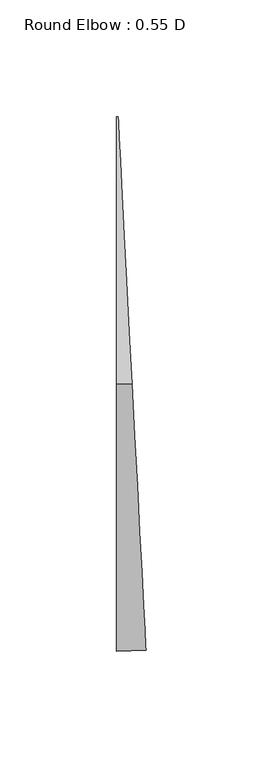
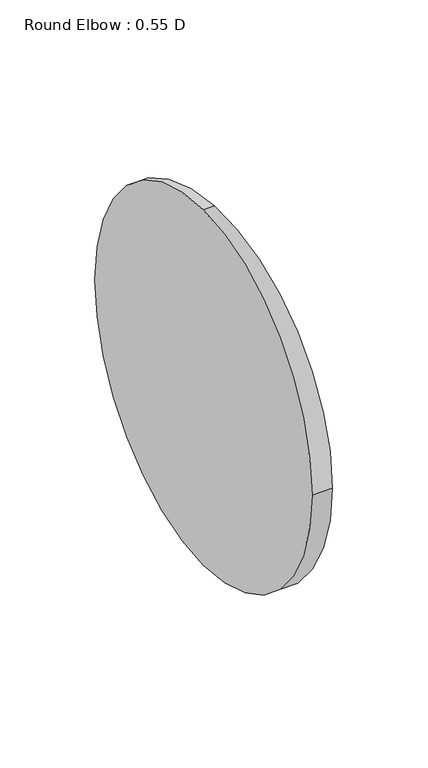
"""IFC4 building model written with IfcOpenShell, lengths in millimetres: duct fitting geometry, Round Elbow : 0.55 D."""

from ifc_helpers import new_model, si_unit, point, frame, origin, place, context, project, spatial, circle_curve, ellipse_curve, trimmed, source, transform, mapped, element, save
from ifc_brep_helpers import plane_surface, revolved_surface, advanced_brep


def round_elbow_0_55_d_5d434363(model_context):
    return source(origin(), model_context, "Body", "AdvancedBrep", [
        advanced_brep(
        [(-3.2923559, 0.0, 114.3), (-3.2923559, 114.3, 0.0), (-3.2923559, 0.0, -114.3), (-3.2923559, -114.3, 0.0), (3.2878439, 0.1723086, 114.3), (9.2698437, -113.9710472, 0.0), (3.2878439, 0.1723086, -114.3), (-2.6941559, 114.3156644, 0.0)],
        [
            (0, 1, circle_curve(frame((-3.2923559, 0.0, 0.0), z_axis=(-1.0, 0.0, 0.0), x_axis=(0.0, 1.0, 0.0)), 114.3)),
            (1, 2, circle_curve(frame((-3.2923559, 0.0, 0.0), z_axis=(-1.0, 0.0, 0.0), x_axis=(0.0, 1.0, 0.0)), 114.3)),
            (2, 3, circle_curve(frame((-3.2923559, 0.0, 0.0), z_axis=(-1.0, 0.0, 0.0), x_axis=(0.0, 1.0, 0.0)), 114.3)),
            (3, 0, circle_curve(frame((-3.2923559, 0.0, 0.0), z_axis=(-1.0, 0.0, 0.0), x_axis=(0.0, 1.0, 0.0)), 114.3)),
            (4, 5, circle_curve(frame((3.2878439, 0.1723086, 0.0), z_axis=(0.9986295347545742, 0.05233595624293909, 0.0), x_axis=(-0.05233595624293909, 0.9986295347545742, 0.0)), 114.3)),
            (5, 6, circle_curve(frame((3.2878439, 0.1723086, 0.0), z_axis=(0.9986295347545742, 0.05233595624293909, 0.0), x_axis=(-0.05233595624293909, 0.9986295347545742, 0.0)), 114.3)),
            (6, 7, circle_curve(frame((3.2878439, 0.1723086, 0.0), z_axis=(0.9986295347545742, 0.05233595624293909, 0.0), x_axis=(-0.05233595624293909, 0.9986295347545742, 0.0)), 114.3)),
            (7, 4, circle_curve(frame((3.2878439, 0.1723086, 0.0), z_axis=(0.9986295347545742, 0.05233595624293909, 0.0), x_axis=(-0.05233595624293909, 0.9986295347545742, 0.0)), 114.3)),
            (7, 1, circle_curve(frame((-3.2923559, 125.73, 0.0), z_axis=(0.0, 0.0, -1.0), x_axis=(0.0, -1.0, 0.0)), 11.43)),
            (0, 4, circle_curve(frame((-3.2923559, 125.73, 114.3), z_axis=(0.0, 0.0, 1.0), x_axis=(0.0, -1.0, 0.0)), 125.73)),
            (6, 2, circle_curve(frame((-3.2923559, 125.73, -114.3), z_axis=(0.0, 0.0, -1.0), x_axis=(0.0, -1.0, 0.0)), 125.73)),
            (5, 3, circle_curve(frame((-3.2923559, 125.73, 0.0), z_axis=(0.0, 0.0, -1.0), x_axis=(0.0, -1.0, 0.0)), 240.03)),
        ],
        [
            plane_surface(frame((-3.2923559, 0.0, 0.0), z_axis=(-1.0, 0.0, 0.0), x_axis=(0.0, 0.0, 1.0))),
            plane_surface(frame((3.2878439, 0.1723086, 0.0), z_axis=(0.9986295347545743, 0.052335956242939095, 0.0), x_axis=(0.0, 0.0, 1.0))),
            revolved_surface(trimmed(ellipse_curve(frame((-3.2923559, 0.0, 0.0), z_axis=(-1.0, 0.0, 0.0), x_axis=(0.0, 1.0, 0.0)), 114.3, 114.3), [point((-3.2923559, 0.0, 114.3))], [point((-3.2923559, 114.3, 0.0))], True, "CARTESIAN"), (-3.2923559, 125.73, 0.0), (0.0, 0.0, 1.0)),
            revolved_surface(trimmed(ellipse_curve(frame((-3.2923559, 0.0, 0.0), z_axis=(-1.0, 0.0, 0.0), x_axis=(0.0, 1.0, 0.0)), 114.3, 114.3), [point((-3.2923559, 114.3, 0.0))], [point((-3.2923559, 0.0, -114.3))], True, "CARTESIAN"), (-3.2923559, 125.73, 0.0), (0.0, 0.0, 1.0)),
            revolved_surface(trimmed(ellipse_curve(frame((-3.2923559, 0.0, 0.0), z_axis=(-1.0, 0.0, 0.0), x_axis=(0.0, 1.0, 0.0)), 114.3, 114.3), [point((-3.2923559, 0.0, -114.3))], [point((-3.2923559, -114.3, 0.0))], True, "CARTESIAN"), (-3.2923559, 125.73, 0.0), (0.0, 0.0, 1.0)),
            revolved_surface(trimmed(ellipse_curve(frame((-3.2923559, 0.0, 0.0), z_axis=(-1.0, 0.0, 0.0), x_axis=(0.0, 1.0, 0.0)), 114.3, 114.3), [point((-3.2923559, -114.3, 0.0))], [point((-3.2923559, 0.0, 114.3))], True, "CARTESIAN"), (-3.2923559, 125.73, 0.0), (0.0, 0.0, 1.0)),
        ],
        [
            (0, [[1, 2, 3, 4]]),
            (1, [[5, 6, 7, 8]]),
            (2, [[9, -1, 10, -8]]),
            (3, [[11, -2, -9, -7]]),
            (4, [[12, -3, -11, -6]]),
            (5, [[-10, -4, -12, -5]]),
        ],
    ),
    ])


if __name__ == "__main__":
    model = new_model("IFC4")
    model_context = context("Model", 3, world=origin())
    ifc_project = project(units=[si_unit("LENGTHUNIT", "METRE", prefix="MILLI")], contexts=[model_context])
    site = spatial("IfcSite", under=ifc_project)
    building = spatial("IfcBuilding", under=site)
    placement = place(None, origin())
    round_elbow_0_55_d_shape = round_elbow_0_55_d_5d434363(model_context)
    element("IfcDuctFitting", 1, ObjectType="Round Elbow : 0.55 D", at=placement, inside=building, context=model_context, shape_type="MappedRepresentation", body=[
        mapped(round_elbow_0_55_d_shape, transform((0.0, 0.0, 0.0), x_axis=(1.0, 0.0, 0.0), y_axis=(0.0, 1.0, 0.0), z_axis=(0.0, 0.0, 1.0))),
    ])
    save(model, "model.ifc")
